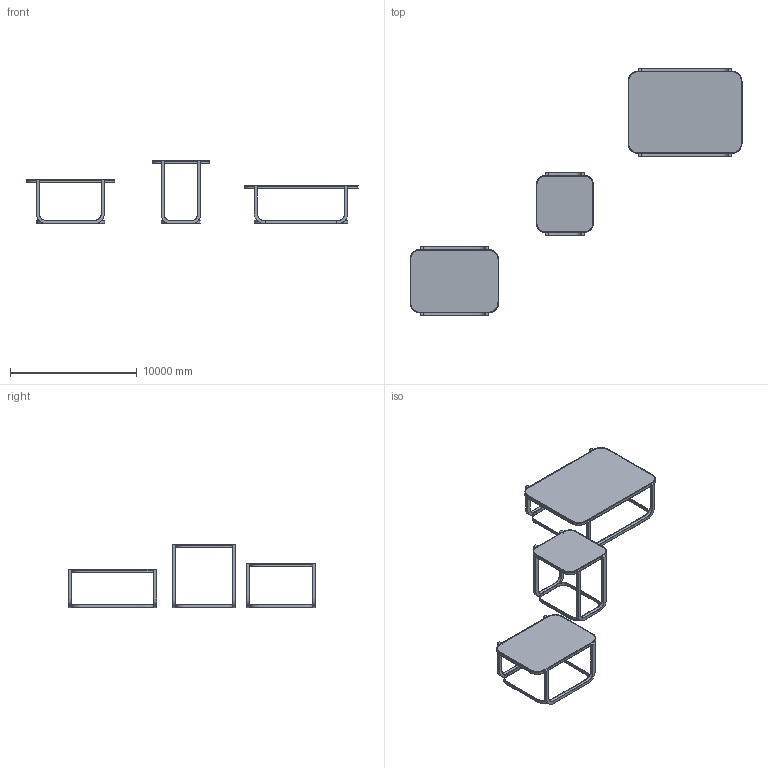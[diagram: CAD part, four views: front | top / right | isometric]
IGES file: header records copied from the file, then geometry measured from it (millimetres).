
Global section: file name: \\192.168.4.99\ufficio_tecnico\3d per sito\duet\duet.igs; native system: Rhinoceros ( Aug 10 2015 ); preprocessor: Trout Lake IGES 012 Aug 10 2015; date: 170609.082924; units: centimetre
Bounding box: 26220 x 19580 x 5000 mm (x, y, z)
Surface area: 371386821.7 mm2 (no closed solid volume)
Topology: 0 solids, 0 shells, 239 faces, 2487 edges, 2377 vertices
Faces by surface type: bspline 239
